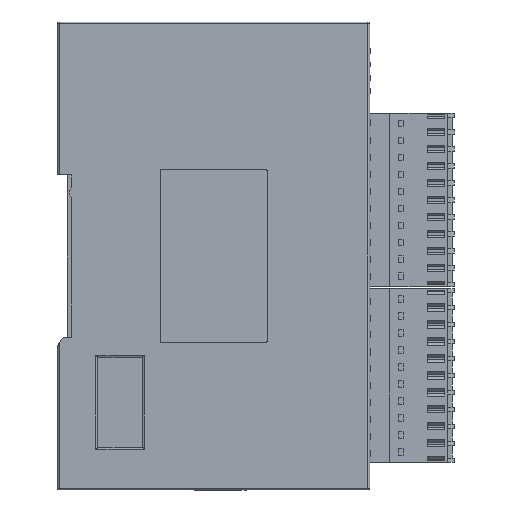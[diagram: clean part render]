
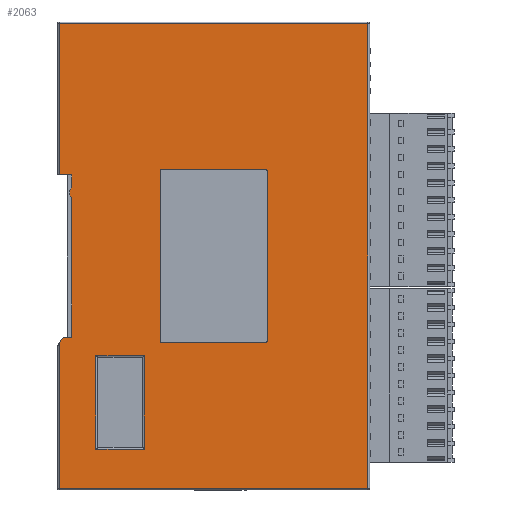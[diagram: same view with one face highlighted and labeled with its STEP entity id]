
A CAD part, left-side view. The second image highlights one B-rep face of the part: STEP entity #2063.
In plain terms, the highlighted planar face has unit normal (-1, 0, 0).
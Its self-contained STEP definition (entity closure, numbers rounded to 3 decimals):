
#2063=ADVANCED_FACE('',(#17650,#17652,#17654),#17656,.T.);
#17650=FACE_BOUND('',#17651,.T.);
#17651=EDGE_LOOP('',(#30827,#30828,#30829,#30830,#30831,#30832,#30833,#30834,#30835,
#30836,#30837));
#17652=FACE_BOUND('',#17653,.T.);
#17653=EDGE_LOOP('',(#30838,#30839,#30840,#30841,#30842,#30843,#30844,#30845));
#17654=FACE_BOUND('',#17655,.T.);
#17655=EDGE_LOOP('',(#30846,#30847,#30848,#30849));
#17656=PLANE('',#17657);
#17657=AXIS2_PLACEMENT_3D('',#17658,#17659,#17660);
#17658=CARTESIAN_POINT('',(-345.903,-44.348,173.566));
#17659=DIRECTION('',(-1.,0.,0.));
#17660=DIRECTION('',(0.,0.,1.));
#30827=ORIENTED_EDGE('',*,*,#39554,.F.);
#30828=ORIENTED_EDGE('',*,*,#39555,.F.);
#30829=ORIENTED_EDGE('',*,*,#39556,.T.);
#30830=ORIENTED_EDGE('',*,*,#39557,.T.);
#30831=ORIENTED_EDGE('',*,*,#39558,.T.);
#30832=ORIENTED_EDGE('',*,*,#39559,.T.);
#30833=ORIENTED_EDGE('',*,*,#39560,.T.);
#30834=ORIENTED_EDGE('',*,*,#39561,.F.);
#30835=ORIENTED_EDGE('',*,*,#39562,.F.);
#30836=ORIENTED_EDGE('',*,*,#39563,.F.);
#30837=ORIENTED_EDGE('',*,*,#39274,.F.);
#30838=ORIENTED_EDGE('',*,*,#39564,.F.);
#30839=ORIENTED_EDGE('',*,*,#39565,.F.);
#30840=ORIENTED_EDGE('',*,*,#39566,.F.);
#30841=ORIENTED_EDGE('',*,*,#39567,.F.);
#30842=ORIENTED_EDGE('',*,*,#39568,.F.);
#30843=ORIENTED_EDGE('',*,*,#39569,.F.);
#30844=ORIENTED_EDGE('',*,*,#39570,.F.);
#30845=ORIENTED_EDGE('',*,*,#39571,.F.);
#30846=ORIENTED_EDGE('',*,*,#39572,.F.);
#30847=ORIENTED_EDGE('',*,*,#39573,.F.);
#30848=ORIENTED_EDGE('',*,*,#39574,.F.);
#30849=ORIENTED_EDGE('',*,*,#39575,.F.);
#39274=EDGE_CURVE('',#45354,#45352,#45356,.T.);
#39554=EDGE_CURVE('',#45893,#45354,#45894,.T.);
#39555=EDGE_CURVE('',#45895,#45893,#45896,.T.);
#39556=EDGE_CURVE('',#45895,#45897,#45898,.T.);
#39557=EDGE_CURVE('',#45897,#45899,#45900,.T.);
#39558=EDGE_CURVE('',#45899,#45901,#45902,.T.);
#39559=EDGE_CURVE('',#45901,#45903,#45904,.T.);
#39560=EDGE_CURVE('',#45903,#45905,#45906,.T.);
#39561=EDGE_CURVE('',#45907,#45905,#45908,.T.);
#39562=EDGE_CURVE('',#45909,#45907,#45910,.T.);
#39563=EDGE_CURVE('',#45352,#45909,#45911,.T.);
#39564=EDGE_CURVE('',#45912,#45913,#45914,.T.);
#39565=EDGE_CURVE('',#45915,#45912,#45916,.T.);
#39566=EDGE_CURVE('',#45917,#45915,#45918,.T.);
#39567=EDGE_CURVE('',#45919,#45917,#45920,.T.);
#39568=EDGE_CURVE('',#45921,#45919,#45922,.T.);
#39569=EDGE_CURVE('',#45923,#45921,#45924,.T.);
#39570=EDGE_CURVE('',#45925,#45923,#45926,.T.);
#39571=EDGE_CURVE('',#45913,#45925,#45927,.T.);
#39572=EDGE_CURVE('',#45928,#45929,#45930,.T.);
#39573=EDGE_CURVE('',#45931,#45928,#45932,.T.);
#39574=EDGE_CURVE('',#45933,#45931,#45934,.T.);
#39575=EDGE_CURVE('',#45929,#45933,#45935,.T.);
#45352=VERTEX_POINT('',#56329);
#45354=VERTEX_POINT('',#56334);
#45356=LINE('',#56339,#56340);
#45893=VERTEX_POINT('',#57557);
#45894=LINE('',#57558,#57559);
#45895=VERTEX_POINT('',#57561);
#45896=LINE('',#57562,#57563);
#45897=VERTEX_POINT('',#57565);
#45898=LINE('',#57566,#57567);
#45899=VERTEX_POINT('',#57569);
#45900=LINE('',#57570,#57571);
#45901=VERTEX_POINT('',#57573);
#45902=CIRCLE('',#57574,2.);
#45903=VERTEX_POINT('',#57578);
#45904=LINE('',#57579,#57580);
#45905=VERTEX_POINT('',#57582);
#45906=LINE('',#57583,#57584);
#45907=VERTEX_POINT('',#57586);
#45908=LINE('',#57587,#57588);
#45909=VERTEX_POINT('',#57590);
#45910=LINE('',#57591,#57592);
#45911=LINE('',#57594,#57595);
#45912=VERTEX_POINT('',#57597);
#45913=VERTEX_POINT('',#57598);
#45914=CIRCLE('',#57599,0.5);
#45915=VERTEX_POINT('',#57603);
#45916=LINE('',#57604,#57605);
#45917=VERTEX_POINT('',#57607);
#45918=CIRCLE('',#57608,0.5);
#45919=VERTEX_POINT('',#57612);
#45920=LINE('',#57613,#57614);
#45921=VERTEX_POINT('',#57616);
#45922=CIRCLE('',#57617,0.5);
#45923=VERTEX_POINT('',#57621);
#45924=LINE('',#57622,#57623);
#45925=VERTEX_POINT('',#57625);
#45926=CIRCLE('',#57626,0.5);
#45927=LINE('',#57630,#57631);
#45928=VERTEX_POINT('',#57633);
#45929=VERTEX_POINT('',#57634);
#45930=LINE('',#57635,#57636);
#45931=VERTEX_POINT('',#57638);
#45932=LINE('',#57639,#57640);
#45933=VERTEX_POINT('',#57642);
#45934=LINE('',#57643,#57644);
#45935=LINE('',#57646,#57647);
#56329=CARTESIAN_POINT('',(-345.903,-120.48,183.998));
#56334=CARTESIAN_POINT('',(-345.903,-120.48,288.198));
#56339=CARTESIAN_POINT('',(-345.903,-120.48,288.198));
#56340=VECTOR('',#56341,1.);
#56341=DIRECTION('',(0.,0.,-1.));
#57557=CARTESIAN_POINT('',(-345.903,-51.28,288.198));
#57558=CARTESIAN_POINT('',(-345.903,-51.28,288.198));
#57559=VECTOR('',#57560,1.);
#57560=DIRECTION('',(0.,-1.,0.));
#57561=CARTESIAN_POINT('',(-345.903,-51.28,254.298));
#57562=CARTESIAN_POINT('',(-345.903,-51.28,254.298));
#57563=VECTOR('',#57564,1.);
#57564=DIRECTION('',(0.,0.,1.));
#57565=CARTESIAN_POINT('',(-345.903,-54.08,254.298));
#57566=CARTESIAN_POINT('',(-345.903,-51.28,254.298));
#57567=VECTOR('',#57568,1.);
#57568=DIRECTION('',(0.,-1.,0.));
#57569=CARTESIAN_POINT('',(-345.903,-54.08,251.62));
#57570=CARTESIAN_POINT('',(-345.903,-54.08,254.298));
#57571=VECTOR('',#57572,1.);
#57572=DIRECTION('',(0.,0.,-1.));
#57573=CARTESIAN_POINT('',(-345.903,-54.08,248.975));
#57574=AXIS2_PLACEMENT_3D('',#57575,#57576,#57577);
#57575=CARTESIAN_POINT('',(-345.903,-55.58,250.298));
#57576=DIRECTION('',(-1.,0.,0.));
#57577=DIRECTION('',(0.,0.75,0.661));
#57578=CARTESIAN_POINT('',(-345.903,-54.08,217.898));
#57579=CARTESIAN_POINT('',(-345.903,-54.08,248.975));
#57580=VECTOR('',#57581,1.);
#57581=DIRECTION('',(0.,0.,-1.));
#57582=CARTESIAN_POINT('',(-345.903,-52.08,217.898));
#57583=CARTESIAN_POINT('',(-345.903,-54.08,217.898));
#57584=VECTOR('',#57585,1.);
#57585=DIRECTION('',(0.,1.,0.));
#57586=CARTESIAN_POINT('',(-345.903,-51.28,216.564));
#57587=CARTESIAN_POINT('',(-345.903,-51.28,216.564));
#57588=VECTOR('',#57589,1.);
#57589=DIRECTION('',(0.,-0.515,0.857));
#57590=CARTESIAN_POINT('',(-345.903,-51.28,183.998));
#57591=CARTESIAN_POINT('',(-345.903,-51.28,183.998));
#57592=VECTOR('',#57593,1.);
#57593=DIRECTION('',(0.,0.,1.));
#57594=CARTESIAN_POINT('',(-345.903,-120.48,183.998));
#57595=VECTOR('',#57596,1.);
#57596=DIRECTION('',(0.,1.,0.));
#57597=CARTESIAN_POINT('',(-345.903,-74.38,255.598));
#57598=CARTESIAN_POINT('',(-345.903,-73.88,255.098));
#57599=AXIS2_PLACEMENT_3D('',#57600,#57601,#57602);
#57600=CARTESIAN_POINT('',(-345.903,-74.38,255.098));
#57601=DIRECTION('',(-1.,0.,0.));
#57602=DIRECTION('',(0.,0.,1.));
#57603=CARTESIAN_POINT('',(-345.903,-97.38,255.598));
#57604=CARTESIAN_POINT('',(-345.903,-97.38,255.598));
#57605=VECTOR('',#57606,1.);
#57606=DIRECTION('',(0.,1.,0.));
#57607=CARTESIAN_POINT('',(-345.903,-97.88,255.098));
#57608=AXIS2_PLACEMENT_3D('',#57609,#57610,#57611);
#57609=CARTESIAN_POINT('',(-345.903,-97.38,255.098));
#57610=DIRECTION('',(-1.,0.,0.));
#57611=DIRECTION('',(0.,-1.,0.));
#57612=CARTESIAN_POINT('',(-345.903,-97.88,217.098));
#57613=CARTESIAN_POINT('',(-345.903,-97.88,217.098));
#57614=VECTOR('',#57615,1.);
#57615=DIRECTION('',(0.,0.,1.));
#57616=CARTESIAN_POINT('',(-345.903,-97.38,216.598));
#57617=AXIS2_PLACEMENT_3D('',#57618,#57619,#57620);
#57618=CARTESIAN_POINT('',(-345.903,-97.38,217.098));
#57619=DIRECTION('',(-1.,0.,0.));
#57620=DIRECTION('',(0.,0.,-1.));
#57621=CARTESIAN_POINT('',(-345.903,-74.38,216.598));
#57622=CARTESIAN_POINT('',(-345.903,-74.38,216.598));
#57623=VECTOR('',#57624,1.);
#57624=DIRECTION('',(0.,-1.,0.));
#57625=CARTESIAN_POINT('',(-345.903,-73.88,217.098));
#57626=AXIS2_PLACEMENT_3D('',#57627,#57628,#57629);
#57627=CARTESIAN_POINT('',(-345.903,-74.38,217.098));
#57628=DIRECTION('',(-1.,0.,0.));
#57629=DIRECTION('',(0.,1.,0.));
#57630=CARTESIAN_POINT('',(-345.903,-73.88,255.098));
#57631=VECTOR('',#57632,1.);
#57632=DIRECTION('',(0.,0.,-1.));
#57633=CARTESIAN_POINT('',(-345.903,-70.34,213.748));
#57634=CARTESIAN_POINT('',(-345.903,-59.45,213.748));
#57635=CARTESIAN_POINT('',(-345.903,-70.34,213.748));
#57636=VECTOR('',#57637,1.);
#57637=DIRECTION('',(0.,1.,0.));
#57638=CARTESIAN_POINT('',(-345.903,-70.34,192.748));
#57639=CARTESIAN_POINT('',(-345.903,-70.34,192.748));
#57640=VECTOR('',#57641,1.);
#57641=DIRECTION('',(0.,0.,1.));
#57642=CARTESIAN_POINT('',(-345.903,-59.45,192.748));
#57643=CARTESIAN_POINT('',(-345.903,-59.45,192.748));
#57644=VECTOR('',#57645,1.);
#57645=DIRECTION('',(0.,-1.,0.));
#57646=CARTESIAN_POINT('',(-345.903,-59.45,213.748));
#57647=VECTOR('',#57648,1.);
#57648=DIRECTION('',(0.,0.,-1.));
